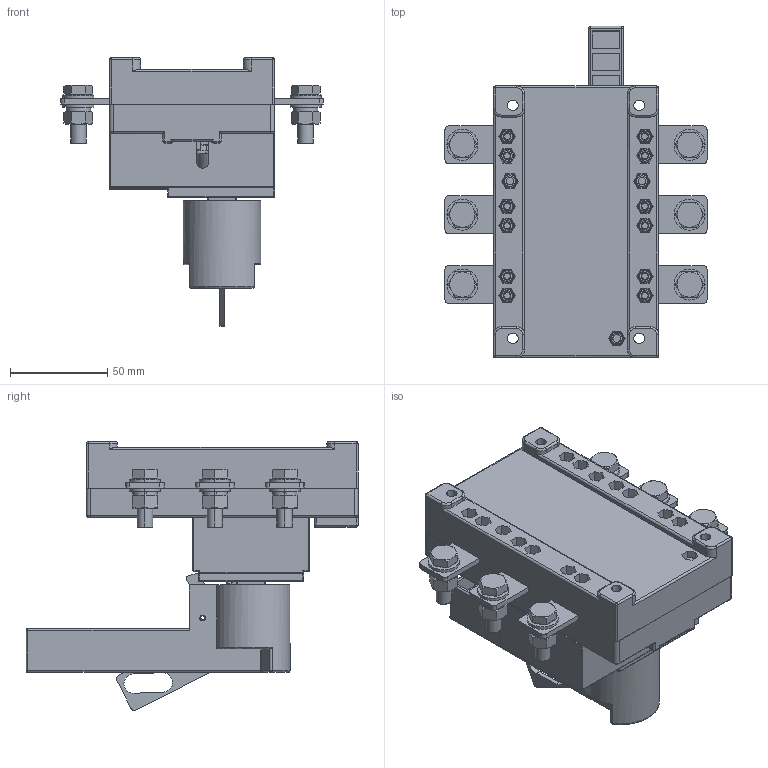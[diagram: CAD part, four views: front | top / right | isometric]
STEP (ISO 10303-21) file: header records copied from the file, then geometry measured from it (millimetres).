
FILE_DESCRIPTION((''),'2;1');
FILE_NAME('2TZD_504_1003_ASM','2022-03-11T',('panxiangxiang'),(''),'PRO/ENGINEER BY PARAMETRIC TECHNOLOGY CORPORATION, 2017170','PRO/ENGINEER BY PARAMETRIC TECHNOLOGY CORPORATION, 2017170','');
FILE_SCHEMA(('CONFIG_CONTROL_DESIGN'));
Products named in the file (31): 8TZD_022_1015; 8TZD_557_1055; 0GB-T5783-010; 2GB6172-2-002; 5TZD_022_1013_ASM; 8TZD_235_1012; 8TZD_557_1054; 8TZD_285_1009; 5TZD_558_1062_ASM; 8TZD_060_1002; 8TZD_268_1005; 8TZD_201_1015; 8TZD_288_1054; 8TZD_005_1014; 8TZD_235_1013; 3GB845-011; 3GB71-002; 5TZD_005_1003_ASM; GB818-M4X24; 8TZD_860_1061; 6TZD_250_1005_ASM; 8TZD_100_1057; 8TZD_253_1084; 8TZD_140_1007; 6GB-879-2-002; 5TZD_253_1016_ASM; GB-T97_1-8; GB-T93-8; 0GB-T5783-009; 2GB-T6170-005; 2TZD_504_1003_ASM
Assembly tree (100 placements, depth 4):
  2TZD_504_1003_ASM
    6TZD_250_1005_ASM
      5TZD_022_1013_ASM
        8TZD_022_1015
        8TZD_557_1055  x6
        0GB-T5783-010  x12
        2GB6172-2-002  x12
      5TZD_558_1062_ASM
        8TZD_235_1012
        8TZD_557_1054  x6
        8TZD_285_1009  x6
      5TZD_005_1003_ASM
        8TZD_060_1002
        8TZD_268_1005
        8TZD_201_1015
        8TZD_288_1054
        8TZD_005_1014
        8TZD_235_1013
        3GB845-011  x2
        3GB71-002
      GB818-M4X24  x3
      2GB6172-2-002  x3
      8TZD_860_1061
    8TZD_100_1057
    5TZD_253_1016_ASM
      8TZD_253_1084
      8TZD_140_1007
      6GB-879-2-002
    3GB845-011
    GB-T97_1-8  x12
    GB-T93-8  x6
    0GB-T5783-009  x6
    2GB-T6170-005  x6
Bounding box: 135 x 171 x 138.4 mm (x, y, z)
Volume: 385529.3 mm3; surface area: 244481.3 mm2
Topology: 139 solids, 189 shells, 7188 faces, 19415 edges, 12664 vertices
Faces by surface type: plane 5532, cylinder 949, cone 551, torus 102, sphere 47, bspline 7
Entity records: 178047 total; most frequent: CARTESIAN_POINT 34629, ORIENTED_EDGE 30634, DIRECTION 27582, EDGE_CURVE 15331, VECTOR 13898, LINE 13898, VERTEX_POINT 10124, AXIS2_PLACEMENT_3D 6842
